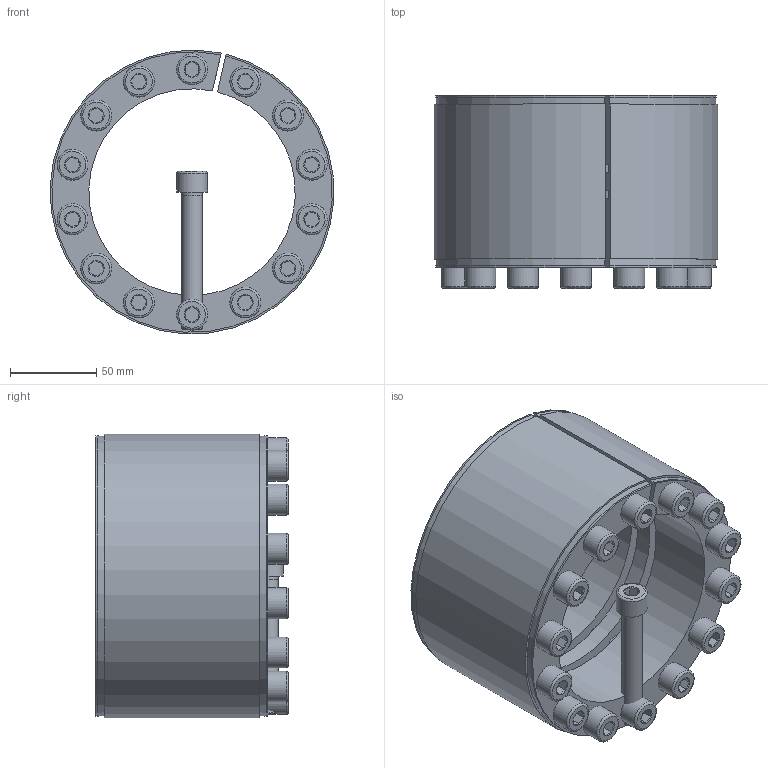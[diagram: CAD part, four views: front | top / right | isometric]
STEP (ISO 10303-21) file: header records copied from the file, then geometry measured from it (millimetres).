
FILE_DESCRIPTION( ( 'Unknown' ), '1' );
FILE_NAME( 'C:/Dokumente und Einstellungen/Sven/Desktop/homepage/cad - homepage/KBS11/KBS 11 - 120 x 165.stp', 'Unknown', ( 'Unknown' ), ( 'Unknown' ), 'XStep 1.0', 'Unknown', ' ' );
FILE_SCHEMA( ( 'automotive_design' ) );
Length unit declared in the file: millimetre
Products named in the file (3): Assem1; KBS 11 - 120 x 165; ISO EN DIN 4762 M12x80
Bounding box: 164.78 x 112 x 164.85 mm (x, y, z)
Volume: 1721540 mm3; surface area: 433986.7 mm2
Topology: 17 solids, 17 shells, 499 faces, 1061 edges, 656 vertices
Faces by surface type: plane 200, cylinder 156, cone 113, torus 30
Full cylindrical faces by diameter (mm): 11 x15, 12 x114, 18 x15
Entity records: 3266 total; most frequent: CARTESIAN_POINT 489, DIRECTION 484, ORIENTED_EDGE 346, EDGE_LOOP 224, AXIS2_PLACEMENT_3D 222, EDGE_CURVE 173, VERTEX_POINT 143, FACE_OUTER_BOUND 135
